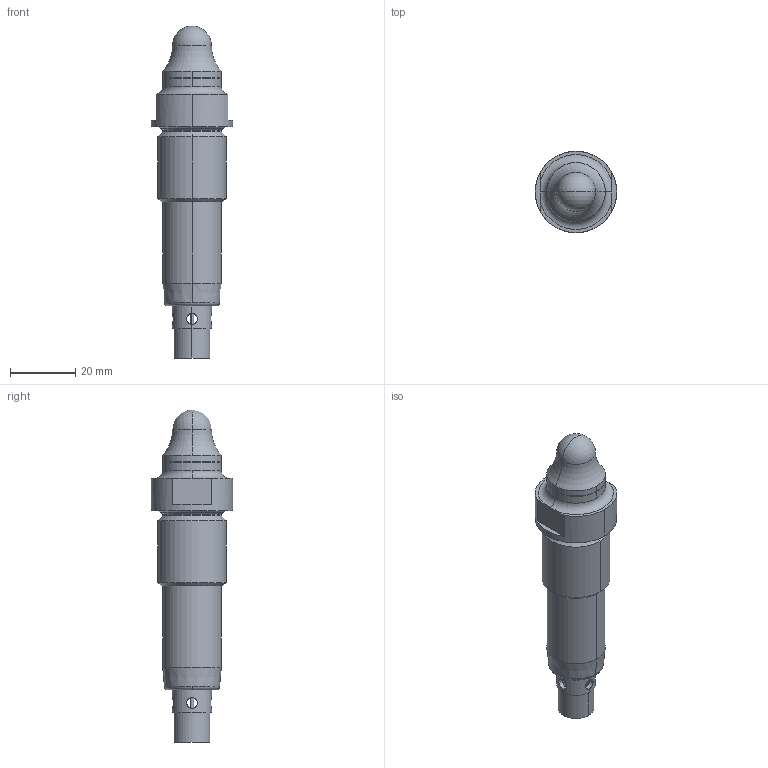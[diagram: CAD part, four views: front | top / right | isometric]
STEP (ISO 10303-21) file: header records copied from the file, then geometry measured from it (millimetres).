
FILE_DESCRIPTION (( 'STEP AP214' ), '1' );
FILE_NAME ('BLM1P3R.STEP', '2025-11-11T08:30:44', ( '' ), ( '' ), 'SwSTEP 2.0', 'SolidWorks 2025', '' );
FILE_SCHEMA (( 'AUTOMOTIVE_DESIGN' ));
Length unit declared in the file: millimetre
Products named in the file (3): 11111; BLM1P3R; 头
Assembly tree (2 placements, depth 2):
  BLM1P3R
    11111
    头
Bounding box: 25 x 25 x 102 mm (x, y, z)
Volume: 24625.9 mm3; surface area: 7054.9 mm2
Topology: 6 solids, 6 shells, 82 faces, 202 edges, 123 vertices
Faces by surface type: cylinder 36, plane 18, cone 12, sphere 10, torus 6
Entity records: 2818 total; most frequent: CARTESIAN_POINT 802, DIRECTION 428, ORIENTED_EDGE 372, EDGE_CURVE 186, AXIS2_PLACEMENT_3D 183, VERTEX_POINT 117, CIRCLE 96, EDGE_LOOP 93
